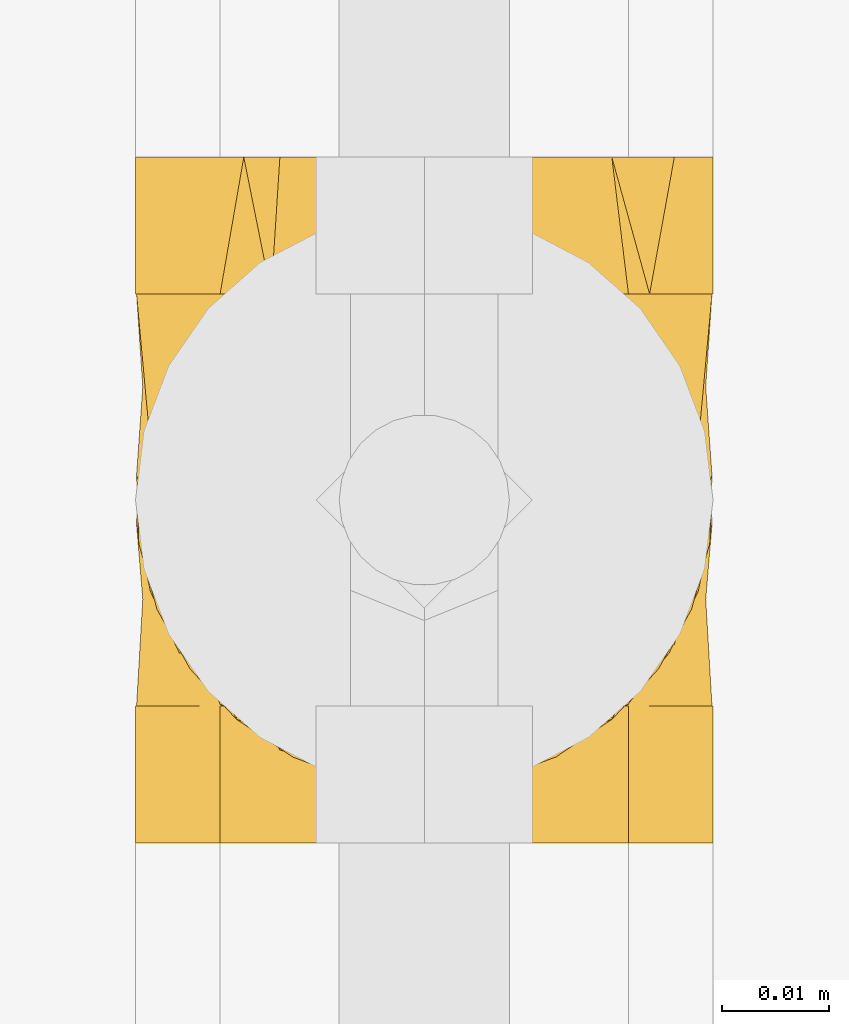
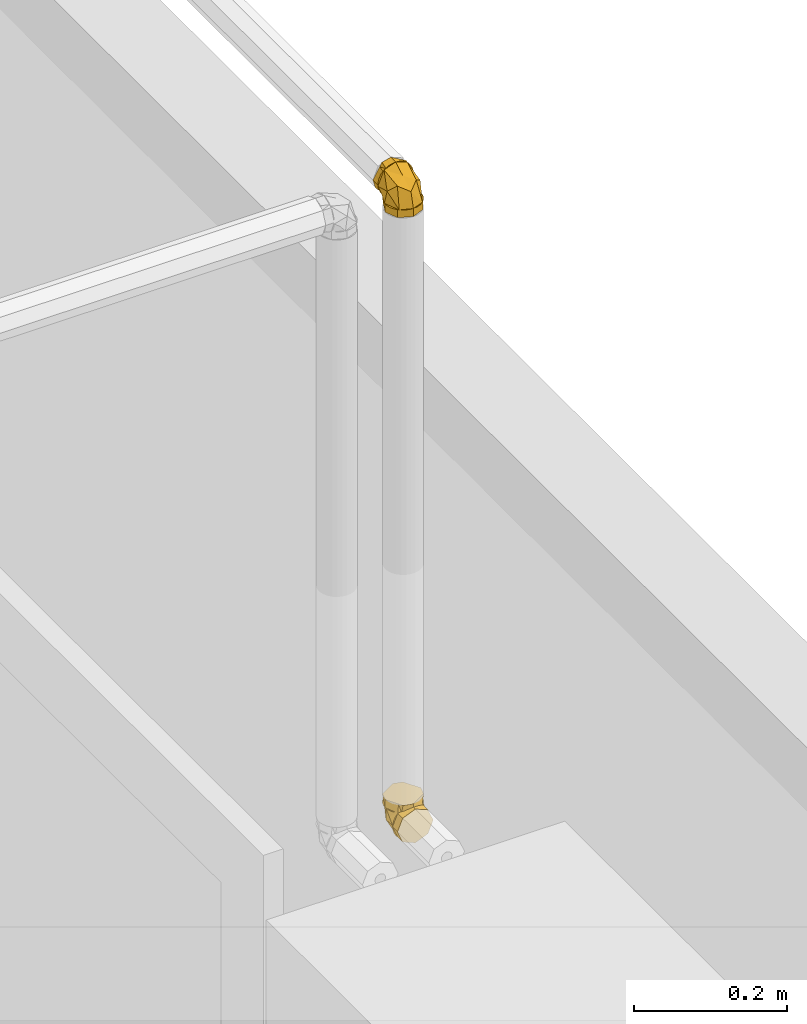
# One storey, part 364 of 652: 2 coverings.
"""IFC2X3 building model written with IfcOpenShell, lengths in millimetres."""

from ifc_helpers import new_model, entity, si_unit, converted_unit, direction, frame, origin, place, context, subcontext, project, spatial, face_set, surface_model, material, type_object, element, save


model = new_model("IFC2X3")

# Units and contexts
model_context = context("Model", 3, precision=0.01, world=frame((0.0, 0.0, 308426.39999999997)), true_north=direction((6.123233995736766e-17, 1.0)))
plan_context = context("Plan", 3, precision=0.01, world=frame((0.0, 0.0, 308426.39999999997)), true_north=direction((6.123233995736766e-17, 1.0)))
body_context = subcontext(model_context, "Body", "Model", "MODEL_VIEW")
ifc_project = project(units=[si_unit("LENGTHUNIT", "METRE", prefix="MILLI"), si_unit("AREAUNIT", "SQUARE_METRE"), si_unit("VOLUMEUNIT", "CUBIC_METRE"), converted_unit("PLANEANGLEUNIT", "DEGREE", entity("IfcPlaneAngleMeasure", 0.017453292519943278), si_unit("PLANEANGLEUNIT", "RADIAN"), dimensions=[0, 0, 0, 0, 0, 0, 0])], contexts=[model_context, plan_context])

# Site, building, storey
site_placement = place(None, origin())
site = spatial("IfcSite", under=ifc_project, at=site_placement, Name="Default", CompositionType="ELEMENT")
building_placement = place(site_placement, origin())
building = spatial("IfcBuilding", under=site, at=building_placement, CompositionType="ELEMENT")
storey_placement = place(building_placement, frame((0.0, 0.0, 1730.6999999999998)))
storey = spatial("IfcBuildingStorey", under=building, at=storey_placement, Name="EG_Produktion_FFB", CompositionType="ELEMENT", Elevation=1730.6999999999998)

# Coverings
ifc_material = material(Name="Dämmung - Armaflex-Schlauch")
covering_type = type_object("IfcCoveringType", Name="Rohrdämmung außen:Armaflex-Schlauch", PredefinedType="INSULATION")
covering_1_placement = place(storey_placement, frame((66296.95799511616, 39818.016249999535, 2671.4672277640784)))
element("IfcCovering", 1, at=covering_1_placement, inside=storey, type_object=covering_type, material=ifc_material, Name="Rohrdämmung außen:Armaflex-Schlauch", ObjectType="Rohrdämmung außen:Armaflex-Schlauch", PredefinedType="INSULATION", context=body_context, shape_type="SurfaceModel", body=[
    surface_model("IfcFaceBasedSurfaceModel", [(9.65642195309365, 12.766250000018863, 47.75027223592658), (5.678961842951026, 12.766250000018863, 42.79223424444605), (2.973980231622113, 12.766250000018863, 37.040242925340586), (1.6920879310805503, 12.766250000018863, 30.81456370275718), (1.904659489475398, 12.766250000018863, 24.46183649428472), (3.599859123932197, 12.766250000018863, 18.33577512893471), (6.683299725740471, 12.766250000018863, 12.777472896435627), (10.983298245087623, 12.766250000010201, 8.096410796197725), (16.26043484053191, 12.766250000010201, 4.553225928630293), (22.220883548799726, 12.766250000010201, 2.3451994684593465), (28.532772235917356, 12.766250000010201, 1.5952722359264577), (34.844660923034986, 12.766250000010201, 2.3451994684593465), (40.8051096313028, 12.766250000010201, 4.553225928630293), (46.08224622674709, 12.766250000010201, 8.096410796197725), (50.38224474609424, 12.766250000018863, 12.777472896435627), (53.465685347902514, 12.766250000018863, 18.33577512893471), (55.16088498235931, 12.766250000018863, 24.46183649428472), (55.37345654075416, 12.766250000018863, 30.81456370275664), (54.0915642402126, 12.766250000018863, 37.04024292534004), (51.38658262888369, 12.766250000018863, 42.79223424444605), (47.409122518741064, 12.766250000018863, 47.75027223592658), (51.38658262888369, 17.72428799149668, 47.75027223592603), (54.0915642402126, 23.47627931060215, 47.75027223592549), (55.37345654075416, 29.70195853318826, 47.75027223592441), (55.16088498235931, 36.05468574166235, 47.75027223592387), (53.465685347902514, 42.18074710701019, 47.750272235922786), (50.38224474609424, 47.73904933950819, 47.750272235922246), (46.08224622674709, 52.42011143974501, 47.750272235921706), (40.8051096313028, 55.96329630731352, 47.750272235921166), (34.844660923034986, 58.17132276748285, 47.750272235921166), (28.532772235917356, 58.921250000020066, 47.750272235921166), (22.220883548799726, 58.17132276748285, 47.750272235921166), (16.26043484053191, 55.96329630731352, 47.750272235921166), (10.983298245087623, 52.42011143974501, 47.750272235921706), (6.683299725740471, 47.73904933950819, 47.750272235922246), (3.599859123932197, 42.18074710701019, 47.750272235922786), (1.904659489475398, 36.05468574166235, 47.75027223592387), (1.6920879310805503, 29.70195853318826, 47.75027223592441), (2.973980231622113, 23.47627931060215, 47.75027223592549), (5.678961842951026, 17.72428799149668, 47.75027223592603), (2.274243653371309, 22.71005615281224, 39.06982362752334), (28.53310595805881, 35.84413818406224, 7.779001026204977), (6.3391118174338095, 12.76647705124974, 19.455613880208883), (3.5997441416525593, 33.56520751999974, 26.95108659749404), (14.28746386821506, 43.183225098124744, 18.674847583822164), (28.53310595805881, 48.37825683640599, 29.486687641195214), (6.3391118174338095, 41.06242431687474, 47.750398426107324), (42.77874804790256, 43.183225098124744, 18.674847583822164), (53.46646777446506, 33.56520751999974, 26.95108659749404), (54.78731738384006, 22.71005615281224, 39.06982362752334), (50.72710009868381, 41.06242431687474, 47.750398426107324), (50.72710009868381, 12.76647705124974, 19.455613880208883), (28.532772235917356, 0.0, 1.5952722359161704), (33.29469446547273, 0.0, 3.567725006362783), (38.05661669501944, 0.0, 5.540177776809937), (42.818538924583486, 0.0, 7.512630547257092), (47.5804611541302, 0.0, 9.485083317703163), (49.552913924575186, 0.0, 14.247005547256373), (51.525366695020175, 0.0, 19.008927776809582), (53.497819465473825, 0.0, 23.770850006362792), (55.47027223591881, 0.0, 28.532772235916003), (53.49781946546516, 0.0, 33.29469446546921), (51.525366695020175, 0.0, 38.05661669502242), (49.552913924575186, 0.0, 42.818538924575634), (47.5804611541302, 0.0, 47.5804611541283), (42.81853892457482, 0.0, 49.552913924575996), (38.05661669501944, 0.0, 51.525366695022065), (33.29469446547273, 0.0, 53.49781946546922), (28.532772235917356, 0.0, 55.470272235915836), (23.77085000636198, 0.0, 53.49781946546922), (19.008927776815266, 0.0, 51.525366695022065), (14.247005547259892, 0.0, 49.552913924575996), (9.485083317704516, 0.0, 47.58046115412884), (7.512630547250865, 0.0, 42.818538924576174), (5.54017777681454, 0.0, 38.05661669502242), (3.567725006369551, 0.0, 33.29469446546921), (1.5952722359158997, 0.0, 28.532772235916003), (3.567725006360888, 0.0, 23.770850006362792), (5.54017777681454, 0.0, 19.008927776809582), (7.512630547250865, 0.0, 14.247005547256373), (9.485083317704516, 0.0, 9.485083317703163), (14.247005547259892, 0.0, 7.512630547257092), (19.008927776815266, 0.0, 5.540177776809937), (23.77085000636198, 0.0, 3.567725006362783), (28.532772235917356, 12.766250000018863, 1.5952722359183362), (23.77085000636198, 12.766250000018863, 3.567725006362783), (19.008927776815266, 12.766250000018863, 5.540177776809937), (14.247005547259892, 12.766250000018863, 7.512630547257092), (9.485083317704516, 12.766250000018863, 9.485083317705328), (7.095738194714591, 12.766250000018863, 15.253472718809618), (4.706393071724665, 12.766250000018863, 21.021862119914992), (1.5952722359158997, 12.766250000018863, 28.532772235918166), (3.567725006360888, 12.766250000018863, 33.29469446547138), (5.54017777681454, 12.766250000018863, 38.05661669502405), (7.512630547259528, 12.766250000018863, 42.818538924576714), (9.485083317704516, 12.766250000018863, 47.58046115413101), (15.253472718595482, 12.766250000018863, 49.96980627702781), (21.021862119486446, 12.766250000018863, 52.359151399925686), (28.532772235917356, 12.766250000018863, 55.470272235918), (33.29469446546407, 12.766250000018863, 53.49781946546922), (38.05661669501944, 12.766250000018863, 51.52536669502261), (42.81853892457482, 12.766250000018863, 49.552913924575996), (47.5804611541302, 12.766250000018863, 47.58046115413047), (49.96980627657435, 12.766250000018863, 41.81207175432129), (52.359151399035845, 12.766250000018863, 36.04368235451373), (55.47027223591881, 12.766250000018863, 28.532772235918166), (53.497819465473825, 12.766250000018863, 23.77085000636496), (51.525366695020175, 12.766250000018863, 19.008927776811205), (49.552913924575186, 12.766250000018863, 14.247005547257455), (47.5804611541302, 12.766250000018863, 9.485083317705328), (41.81207177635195, 12.766250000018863, 7.095738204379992), (36.0436823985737, 12.766250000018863, 4.706393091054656), (28.532772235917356, 58.92125000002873, 60.516522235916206), (22.700632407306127, 55.55406250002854, 60.51652223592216), (16.868492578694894, 52.186875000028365, 60.51652223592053), (11.036352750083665, 48.81968750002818, 60.516522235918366), (5.204212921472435, 45.452500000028, 60.516522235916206), (3.3997425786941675, 38.718125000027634, 60.516522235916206), (1.5952722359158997, 31.98375000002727, 60.516522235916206), (4.962459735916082, 26.151610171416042, 60.51652223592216), (8.329647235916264, 20.319470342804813, 60.51652223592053), (11.696834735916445, 14.487330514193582, 60.516522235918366), (15.064022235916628, 8.655190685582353, 60.516522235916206), (21.79839723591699, 6.850720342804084, 60.516522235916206), (28.532772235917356, 5.046250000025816, 60.516522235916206), (34.36491206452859, 8.413437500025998, 60.51652223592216), (40.197051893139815, 11.78062500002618, 60.51652223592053), (46.02919172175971, 15.147812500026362, 60.516522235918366), (51.86133155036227, 18.515000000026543, 60.516522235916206), (53.66580189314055, 25.24937500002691, 60.516522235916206), (55.47027223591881, 31.98375000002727, 60.516522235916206), (52.10308473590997, 37.815889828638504, 60.51652223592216), (48.73589723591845, 43.64802965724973, 60.51652223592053), (45.36870973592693, 49.48016948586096, 60.516522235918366), (42.00152223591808, 55.312309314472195, 60.516522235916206), (35.26714723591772, 57.11677965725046, 60.516522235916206), (28.532772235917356, 58.92125000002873, 47.75027223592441), (33.29469446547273, 56.94879722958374, 47.75027223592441), (38.05661669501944, 54.97634445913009, 47.75027223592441), (42.81853892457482, 53.0038916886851, 47.75027223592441), (47.5804611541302, 51.03143891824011, 47.75027223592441), (49.552913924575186, 46.26951668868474, 47.75027223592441), (51.525366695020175, 41.50759445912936, 47.75027223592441), (53.497819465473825, 36.745672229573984, 47.75027223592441), (55.47027223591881, 31.98375000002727, 47.75027223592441), (53.497819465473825, 27.22182777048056, 47.75027223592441), (51.525366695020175, 22.459905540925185, 47.75027223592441), (49.552913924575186, 17.697983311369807, 47.75027223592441), (47.5804611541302, 12.936061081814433, 47.75027223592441), (42.81853892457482, 10.963608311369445, 47.75027223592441), (38.05661669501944, 8.991155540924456, 47.75027223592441), (33.29469446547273, 7.018702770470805, 47.75027223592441), (28.532772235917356, 5.046250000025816, 47.75027223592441), (23.770850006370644, 7.018702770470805, 47.75027223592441), (19.008927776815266, 8.991155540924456, 47.75027223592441), (14.247005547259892, 10.963608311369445, 47.75027223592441), (9.485083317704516, 12.936061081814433, 47.75027223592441), (7.512630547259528, 17.697983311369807, 47.75027223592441), (5.54017777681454, 22.459905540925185, 47.75027223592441), (3.567725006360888, 27.221827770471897, 47.75027223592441), (1.5952722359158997, 31.98375000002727, 47.75027223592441), (3.567725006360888, 36.745672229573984, 47.75027223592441), (5.54017777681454, 41.50759445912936, 47.75027223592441), (7.512630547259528, 46.26951668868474, 47.75027223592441), (9.485083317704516, 51.03143891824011, 47.75027223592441), (14.247005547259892, 53.0038916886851, 47.75027223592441), (19.008927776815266, 54.97634445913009, 47.75027223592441), (23.77085000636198, 56.94879722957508, 47.75027223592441)], [face_set([[[0, 1, 2, 3, 4, 5, 6, 7, 8, 9, 10, 11, 12, 13, 14, 15, 16, 17, 18, 19]], [[20, 21, 22, 23, 24, 25, 26, 27, 28, 29, 30, 31, 32, 33, 34, 35, 36, 37, 38, 39]], [[0, 40, 3]], [[10, 7, 41]], [[42, 3, 43]], [[40, 43, 3]], [[37, 40, 0]], [[7, 43, 44]], [[45, 41, 44]], [[7, 44, 41]], [[33, 30, 45]], [[45, 44, 33]], [[43, 33, 44]], [[43, 37, 46]], [[43, 7, 42]], [[37, 43, 40]], [[46, 33, 43]], [[13, 10, 41]], [[27, 47, 45]], [[45, 30, 27]], [[48, 47, 27]], [[49, 48, 23]], [[48, 50, 23]], [[45, 47, 41]], [[20, 49, 23]], [[47, 48, 13]], [[17, 49, 20]], [[41, 47, 13]], [[48, 17, 51]], [[48, 27, 50]], [[17, 48, 49]], [[51, 13, 48]]]), face_set([[[52, 53, 54, 55, 56, 57, 58, 59, 60, 61, 62, 63, 64, 65, 66, 67, 68, 69, 70, 71, 72, 73, 74, 75, 76, 77, 78, 79, 80, 81, 82, 83]], [[84, 85, 86, 87, 88, 89, 90, 91, 92, 93, 94, 95, 96, 97, 98, 99, 100, 101, 102, 103, 104, 105, 106, 107, 108, 109, 110, 111]], [[111, 110, 109, 56, 55, 54, 53, 52, 84]], [[56, 109, 108, 107, 106, 105, 60, 59, 58, 57]], [[104, 103, 102, 64, 63, 62, 61, 60, 105]], [[64, 102, 101, 100, 99, 98, 68, 67, 66, 65]], [[97, 96, 95, 72, 71, 70, 69, 68, 98]], [[72, 95, 94, 93, 92, 91, 76, 75, 74, 73]], [[90, 89, 88, 80, 79, 78, 77, 76, 91]], [[80, 88, 87, 86, 85, 84, 52, 83, 82, 81]]]), face_set([[[112, 113, 114, 115, 116, 117, 118, 119, 120, 121, 122, 123, 124, 125, 126, 127, 128, 129, 130, 131, 132, 133, 134, 135]], [[136, 137, 138, 139, 140, 141, 142, 143, 144, 145, 146, 147, 148, 149, 150, 151, 152, 153, 154, 155, 156, 157, 158, 159, 160, 161, 162, 163, 164, 165, 166, 167]], [[155, 121, 156]], [[118, 159, 119]], [[159, 158, 119]], [[123, 154, 153]], [[153, 152, 124]], [[121, 155, 122]], [[120, 158, 157]], [[118, 160, 159]], [[158, 120, 119]], [[124, 123, 153]], [[157, 156, 121]], [[155, 154, 122]], [[123, 122, 154]], [[120, 157, 121]], [[163, 115, 164]], [[112, 167, 113]], [[167, 166, 113]], [[117, 162, 161]], [[161, 160, 118]], [[115, 163, 116]], [[114, 166, 165]], [[112, 136, 167]], [[166, 114, 113]], [[118, 117, 161]], [[165, 164, 115]], [[163, 162, 116]], [[117, 116, 162]], [[114, 165, 115]], [[139, 133, 140]], [[130, 143, 131]], [[143, 142, 131]], [[135, 138, 137]], [[137, 136, 112]], [[133, 139, 134]], [[132, 142, 141]], [[130, 144, 143]], [[142, 132, 131]], [[112, 135, 137]], [[141, 140, 133]], [[139, 138, 134]], [[135, 134, 138]], [[132, 141, 133]], [[147, 127, 148]], [[124, 151, 125]], [[151, 150, 125]], [[129, 146, 145]], [[145, 144, 130]], [[127, 147, 128]], [[126, 150, 149]], [[124, 152, 151]], [[150, 126, 125]], [[130, 129, 145]], [[149, 148, 127]], [[147, 146, 128]], [[129, 128, 146]], [[126, 149, 127]]])]),
])
covering_2_placement = place(storey_placement, frame((66296.95799511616, 39821.46722776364, 3668.016250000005)))
element("IfcCovering", 2, at=covering_2_placement, inside=storey, type_object=covering_type, material=ifc_material, Name="Rohrdämmung außen:Armaflex-Schlauch", ObjectType="Rohrdämmung außen:Armaflex-Schlauch", PredefinedType="INSULATION", context=body_context, shape_type="SurfaceModel", body=[
    surface_model("IfcFaceBasedSurfaceModel", [(47.409122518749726, 47.750272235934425, 12.766250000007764), (51.38658262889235, 42.79223424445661, 12.76625000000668), (54.09156424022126, 37.040242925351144, 12.76625000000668), (55.373456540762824, 30.81456370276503, 12.766250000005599), (55.160884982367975, 24.461836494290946, 12.766250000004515), (53.465685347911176, 18.3357751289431, 12.766250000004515), (50.382244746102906, 12.777472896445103, 12.766250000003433), (46.08224622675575, 8.096410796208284, 12.766250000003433), (40.80510963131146, 4.553225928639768, 12.76625000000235), (34.84466092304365, 2.345199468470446, 12.76625000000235), (28.532772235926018, 1.5952722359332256, 12.76625000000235), (22.220883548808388, 2.345199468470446, 12.76625000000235), (16.260434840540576, 4.553225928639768, 12.76625000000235), (10.983298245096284, 8.096410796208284, 12.766250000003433), (6.6832997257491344, 12.777472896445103, 12.766250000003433), (3.5998591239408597, 18.3357751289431, 12.766250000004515), (1.904659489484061, 24.461836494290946, 12.766250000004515), (1.6920879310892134, 30.81456370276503, 12.766250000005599), (2.973980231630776, 37.040242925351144, 12.76625000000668), (5.678961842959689, 42.79223424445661, 12.76625000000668), (9.656421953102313, 47.750272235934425, 12.766250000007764), (51.38658262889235, 47.750272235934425, 17.72428799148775), (54.09156424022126, 47.750272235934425, 23.4762793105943), (55.373456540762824, 47.750272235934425, 29.70195853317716), (55.160884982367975, 47.750272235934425, 36.05468574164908), (53.465685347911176, 47.750272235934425, 42.18074710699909), (50.382244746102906, 47.750272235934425, 47.73904933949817), (46.08224622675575, 47.75027223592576, 52.420111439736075), (40.80510963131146, 47.75027223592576, 55.96329630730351), (34.84466092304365, 47.75027223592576, 58.171322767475), (28.532772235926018, 47.75027223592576, 58.92125000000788), (22.220883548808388, 47.75027223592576, 58.171322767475), (16.260434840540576, 47.75027223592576, 55.96329630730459), (10.983298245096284, 47.75027223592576, 52.420111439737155), (6.6832997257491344, 47.750272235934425, 47.73904933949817), (3.5998591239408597, 47.750272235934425, 42.18074710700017), (1.904659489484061, 47.750272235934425, 36.05468574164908), (1.6920879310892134, 47.750272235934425, 29.70195853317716), (2.973980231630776, 47.750272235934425, 23.4762793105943), (5.678961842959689, 47.750272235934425, 17.72428799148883), (54.78731738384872, 39.07182252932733, 22.7092276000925), (28.533105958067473, 7.780709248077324, 35.84389099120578), (50.727100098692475, 19.454415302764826, 12.766229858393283), (53.46646777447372, 26.951632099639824, 33.565541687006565), (42.77874804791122, 18.673067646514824, 43.184140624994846), (28.533105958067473, 29.486361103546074, 48.376846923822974), (50.727100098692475, 47.750362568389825, 41.06101440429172), (14.287463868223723, 18.673067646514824, 43.184140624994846), (3.599744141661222, 26.951632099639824, 33.565541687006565), (2.274243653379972, 39.07182252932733, 22.7092276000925), (6.339111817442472, 47.750362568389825, 41.06101440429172), (6.339111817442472, 19.454415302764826, 12.766229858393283), (42.818538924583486, 7.512630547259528, 0.0), (38.056616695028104, 5.54017777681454, 0.0), (33.29469446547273, 3.567725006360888, 0.0), (28.532772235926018, 1.5952722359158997, 0.0), (23.770850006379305, 3.567725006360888, 0.0), (19.00892777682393, 5.54017777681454, 0.0), (14.247005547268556, 7.512630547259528, 0.0), (9.48508331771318, 9.485083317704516, 0.0), (7.512630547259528, 14.247005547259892, 0.0), (5.540177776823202, 19.008927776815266, 0.0), (3.567725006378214, 23.77085000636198, 0.0), (1.5952722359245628, 28.532772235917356, 0.0), (3.567725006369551, 33.29469446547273, 0.0), (5.540177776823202, 38.05661669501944, 0.0), (7.512630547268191, 42.81853892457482, 0.0), (9.48508331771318, 47.5804611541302, 0.0), (14.247005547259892, 49.552913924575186, 0.0), (19.00892777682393, 51.525366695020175, 0.0), (23.770850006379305, 53.49781946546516, 0.0), (28.532772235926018, 55.47027223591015, 0.0), (33.29469446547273, 53.497819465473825, 0.0), (38.056616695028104, 51.525366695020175, 0.0), (42.81853892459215, 49.552913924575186, 0.0), (47.58046115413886, 47.5804611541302, 0.0), (49.55291392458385, 42.81853892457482, 0.0), (51.525366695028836, 38.05661669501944, 0.0), (53.497819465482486, 33.29469446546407, 0.0), (55.47027223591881, 28.532772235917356, 0.0), (53.497819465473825, 23.770850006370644, 0.0), (51.525366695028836, 19.008927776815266, 0.0), (49.552913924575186, 14.247005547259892, 0.0), (47.58046115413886, 9.485083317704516, 0.0), (28.532772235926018, 1.5952722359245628, 12.76625000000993), (33.29469446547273, 3.567725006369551, 12.76625000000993), (38.056616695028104, 5.54017777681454, 12.76625000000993), (42.818538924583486, 7.512630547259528, 12.766250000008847), (47.58046115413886, 9.48508331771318, 12.766250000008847), (49.96980627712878, 15.253472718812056, 12.766250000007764), (52.35915140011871, 21.02186211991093, 12.76625000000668), (55.47027223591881, 28.532772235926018, 12.766250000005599), (53.497819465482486, 33.29469446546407, 12.766250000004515), (51.525366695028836, 38.05661669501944, 12.766250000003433), (49.55291392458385, 42.81853892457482, 12.76625000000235), (47.58046115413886, 47.58046115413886, 12.76625000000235), (41.81207175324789, 49.96980627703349, 12.76625000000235), (36.04368235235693, 52.35915139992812, 12.76625000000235), (28.532772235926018, 55.47027223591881, 12.766250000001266), (23.770850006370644, 53.49781946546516, 12.766250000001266), (19.00892777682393, 51.525366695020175, 12.766250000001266), (14.247005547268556, 49.552913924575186, 12.76625000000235), (9.48508331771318, 47.58046115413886, 12.76625000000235), (7.095738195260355, 41.8120717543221, 12.766250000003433), (4.706393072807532, 36.043682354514, 12.766250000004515), (1.5952722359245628, 28.532772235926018, 12.766250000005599), (3.567725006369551, 23.77085000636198, 12.76625000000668), (5.540177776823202, 19.008927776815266, 12.766250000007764), (7.512630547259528, 14.247005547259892, 12.766250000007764), (9.48508331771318, 9.48508331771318, 12.766250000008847), (15.253472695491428, 7.095738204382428, 12.76625000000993), (21.021862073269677, 4.706393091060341, 12.76625000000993), (28.532772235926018, 60.51652223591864, 58.92125000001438), (34.36491206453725, 60.516522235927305, 55.554062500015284), (40.197051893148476, 60.516522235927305, 52.1868750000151), (46.02919172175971, 60.516522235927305, 48.819687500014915), (51.86133155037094, 60.51652223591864, 45.45250000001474), (53.66580189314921, 60.51652223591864, 38.718125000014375), (55.470272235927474, 60.51652223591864, 31.98375000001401), (52.10308473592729, 60.516522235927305, 26.151610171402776), (48.73589723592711, 60.516522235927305, 20.31947034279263), (45.36870973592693, 60.51652223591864, 14.487330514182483), (42.00152223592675, 60.51652223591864, 8.655190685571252), (35.26714723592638, 60.51652223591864, 6.850720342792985), (28.532772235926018, 60.51652223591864, 5.046250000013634), (22.70063240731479, 60.516522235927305, 8.413437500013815), (16.86849257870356, 60.516522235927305, 11.780625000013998), (11.036352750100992, 60.516522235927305, 15.14781250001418), (5.204212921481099, 60.51652223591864, 18.51500000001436), (3.399742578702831, 60.51652223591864, 25.249375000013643), (1.5952722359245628, 60.51652223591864, 31.98375000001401), (4.962459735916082, 60.516522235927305, 37.81588982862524), (8.329647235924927, 60.516522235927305, 43.648029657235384), (11.696834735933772, 60.516522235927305, 49.480169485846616), (15.064022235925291, 60.51652223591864, 55.31230931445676), (21.798397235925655, 60.51652223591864, 57.11677965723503), (28.532772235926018, 47.75027223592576, 58.92125000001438), (23.770850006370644, 47.75027223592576, 56.94879722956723), (19.00892777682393, 47.75027223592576, 54.97634445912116), (14.247005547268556, 47.75027223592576, 53.003891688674), (9.48508331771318, 47.75027223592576, 51.03143891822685), (7.512630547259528, 47.75027223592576, 46.26951668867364), (5.540177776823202, 47.75027223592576, 41.507594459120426), (3.567725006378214, 47.75027223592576, 36.74567222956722), (1.5952722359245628, 47.75027223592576, 31.98375000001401), (3.567725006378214, 47.75027223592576, 27.2218277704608), (5.540177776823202, 47.75027223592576, 22.459905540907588), (7.512630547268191, 47.75027223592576, 17.697983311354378), (9.48508331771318, 47.75027223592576, 12.936061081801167), (14.247005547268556, 47.75027223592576, 10.963608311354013), (19.00892777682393, 47.75027223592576, 8.99115554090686), (23.770850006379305, 47.75027223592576, 7.018702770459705), (28.532772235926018, 47.75027223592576, 5.046250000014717), (33.29469446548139, 47.75027223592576, 7.018702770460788), (38.056616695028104, 47.75027223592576, 8.99115554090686), (42.81853892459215, 47.75027223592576, 10.963608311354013), (47.58046115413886, 47.75027223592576, 12.936061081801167), (49.55291392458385, 47.75027223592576, 17.697983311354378), (51.525366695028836, 47.75027223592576, 22.459905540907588), (53.497819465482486, 47.75027223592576, 27.2218277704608), (55.470272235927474, 47.75027223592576, 31.98375000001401), (53.497819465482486, 47.75027223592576, 36.74567222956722), (51.525366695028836, 47.75027223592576, 41.507594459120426), (49.55291392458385, 47.75027223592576, 46.26951668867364), (47.58046115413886, 47.75027223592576, 51.03143891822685), (42.818538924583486, 47.75027223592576, 53.003891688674), (38.056616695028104, 47.75027223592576, 54.97634445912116), (33.29469446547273, 47.75027223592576, 56.94879722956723)], [face_set([[[0, 1, 2, 3, 4, 5, 6, 7, 8, 9, 10, 11, 12, 13, 14, 15, 16, 17, 18, 19]], [[20, 21, 22, 23, 24, 25, 26, 27, 28, 29, 30, 31, 32, 33, 34, 35, 36, 37, 38, 39]], [[0, 40, 3]], [[10, 7, 41]], [[42, 3, 43]], [[40, 43, 3]], [[23, 40, 0]], [[7, 43, 44]], [[45, 41, 44]], [[7, 44, 41]], [[27, 30, 45]], [[45, 44, 27]], [[43, 27, 44]], [[43, 23, 46, 27]], [[43, 7, 42]], [[23, 43, 40]], [[13, 10, 41]], [[33, 47, 45]], [[45, 30, 33]], [[48, 47, 33]], [[49, 48, 37]], [[50, 37, 48, 33]], [[45, 47, 41]], [[20, 49, 37]], [[47, 48, 13]], [[17, 49, 20]], [[41, 47, 13]], [[48, 17, 51]], [[17, 48, 49]], [[51, 13, 48]]]), face_set([[[52, 53, 54, 55, 56, 57, 58, 59, 60, 61, 62, 63, 64, 65, 66, 67, 68, 69, 70, 71, 72, 73, 74, 75, 76, 77, 78, 79, 80, 81, 82, 83]], [[84, 85, 86, 87, 88, 89, 90, 91, 92, 93, 94, 95, 96, 97, 98, 99, 100, 101, 102, 103, 104, 105, 106, 107, 108, 109, 110, 111]], [[111, 110, 109, 59, 58, 57, 56, 55, 84]], [[59, 109, 108, 107, 106, 105, 63, 62, 61, 60]], [[104, 103, 102, 67, 66, 65, 64, 63, 105]], [[67, 102, 101, 100, 99, 98, 71, 70, 69, 68]], [[97, 96, 95, 75, 74, 73, 72, 71, 98]], [[75, 95, 94, 93, 92, 91, 79, 78, 77, 76]], [[90, 89, 88, 83, 82, 81, 80, 79, 91]], [[83, 88, 87, 86, 85, 84, 55, 54, 53, 52]]]), face_set([[[112, 113, 114, 115, 116, 117, 118, 119, 120, 121, 122, 123, 124, 125, 126, 127, 128, 129, 130, 131, 132, 133, 134, 135]], [[136, 137, 138, 139, 140, 141, 142, 143, 144, 145, 146, 147, 148, 149, 150, 151, 152, 153, 154, 155, 156, 157, 158, 159, 160, 161, 162, 163, 164, 165, 166, 167]], [[155, 121, 156]], [[118, 159, 119]], [[159, 158, 119]], [[123, 154, 153]], [[153, 152, 124]], [[121, 155, 122]], [[120, 158, 157]], [[118, 160, 159]], [[158, 120, 119]], [[124, 123, 153]], [[157, 156, 121]], [[155, 154, 122]], [[123, 122, 154]], [[120, 157, 121]], [[163, 115, 164]], [[112, 167, 113]], [[167, 166, 113]], [[117, 162, 161]], [[161, 160, 118]], [[115, 163, 116]], [[114, 166, 165]], [[112, 136, 167]], [[166, 114, 113]], [[118, 117, 161]], [[165, 164, 115]], [[163, 162, 116]], [[117, 116, 162]], [[114, 165, 115]], [[139, 133, 140]], [[130, 143, 131]], [[143, 142, 131]], [[135, 138, 137]], [[137, 136, 112]], [[133, 139, 134]], [[132, 142, 141]], [[130, 144, 143]], [[142, 132, 131]], [[112, 135, 137]], [[141, 140, 133]], [[139, 138, 134]], [[135, 134, 138]], [[132, 141, 133]], [[147, 127, 148]], [[124, 151, 125]], [[151, 150, 125]], [[129, 146, 145]], [[145, 144, 130]], [[127, 147, 128]], [[126, 150, 149]], [[124, 152, 151]], [[150, 126, 125]], [[130, 129, 145]], [[149, 148, 127]], [[147, 146, 128]], [[129, 128, 146]], [[126, 149, 127]]])]),
])

save(model, "model.ifc")
